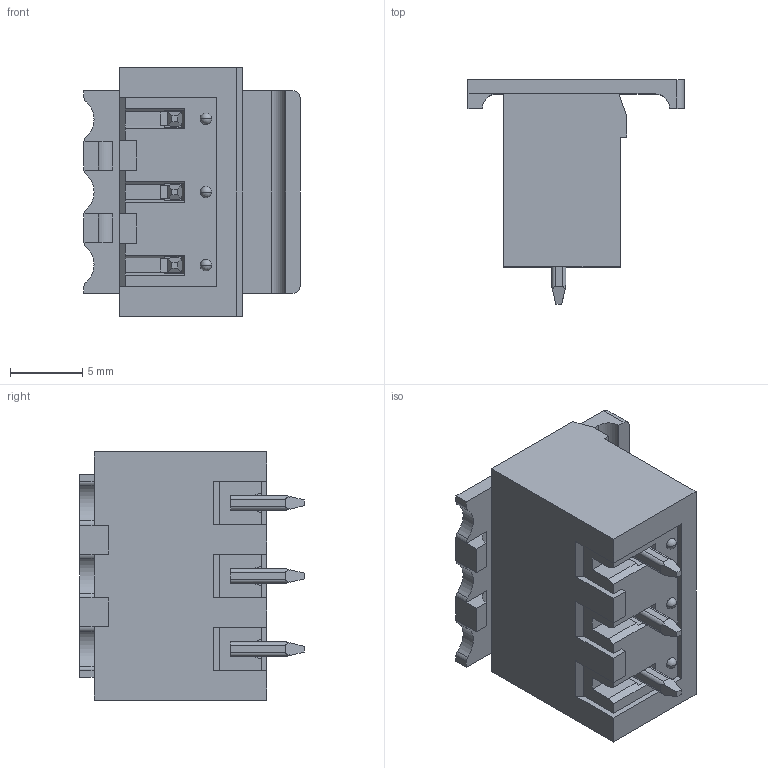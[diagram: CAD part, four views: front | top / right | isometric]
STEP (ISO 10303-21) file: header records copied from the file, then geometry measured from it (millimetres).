
FILE_DESCRIPTION((''),'2;1');
FILE_NAME('3PIN','2020-04-10T',('renkang.li'),(''),'CREO PARAMETRIC BY PTC INC, 2016260','CREO PARAMETRIC BY PTC INC, 2016260','');
FILE_SCHEMA(('CONFIG_CONTROL_DESIGN'));
Length unit declared in the file: millimetre
Products named in the file (1): 3PIN
Bounding box: 15 x 15.6 x 17.24 mm (x, y, z)
Volume: 1091.9 mm3; surface area: 2367.1 mm2
Topology: 1 solids, 1 shells, 378 faces, 1241 edges, 817 vertices
Faces by surface type: plane 274, cylinder 79, cone 13, torus 6, sphere 6
Entity records: 14492 total; most frequent: CARTESIAN_POINT 3598, ORIENTED_EDGE 2470, DIRECTION 2080, EDGE_CURVE 1235, VECTOR 862, LINE 862, VERTEX_POINT 817, AXIS2_PLACEMENT_3D 609
